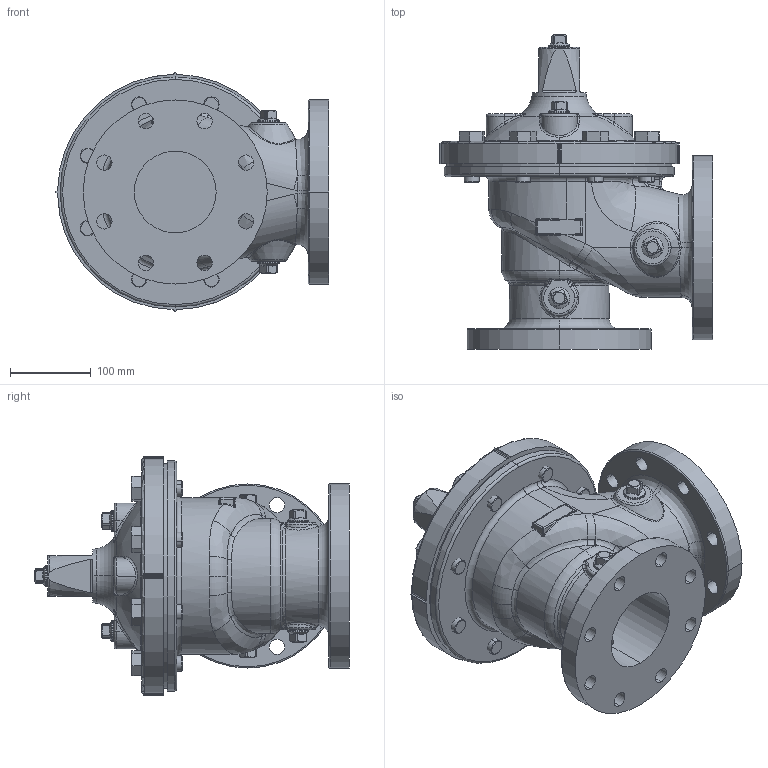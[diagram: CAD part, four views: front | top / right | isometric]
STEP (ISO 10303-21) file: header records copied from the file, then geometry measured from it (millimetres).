
FILE_DESCRIPTION (( 'STEP AP203' ), '1' );
FILE_NAME ('4in 100-01 Main Valve 150AA.STEP', '2016-07-14T17:13:09', ( '' ), ( '' ), 'SwSTEP 2.0', 'SolidWorks 2016', '' );
FILE_SCHEMA (( 'CONFIG_CONTROL_DESIGN' ));
Length unit declared in the file: inch
Products named in the file (5): 4in 100-01 Main Valve 150AA; 4in Body HyAn150A STD (BLUE)_DI, 150 FLAT FACE; 4in Cover (no core)_Default DI; .750 NPT PIPE PLUG (67660)_Default STEEL, CAD PL; Bolt .750-10 UNC  (67609)_2   67609-05H
Assembly tree (17 placements, depth 2):
  4in 100-01 Main Valve 150AA
    4in Body HyAn150A STD (BLUE)_DI, 150 FLAT FACE
    4in Cover (no core)_Default DI
    .750 NPT PIPE PLUG (67660)_Default STEEL, CAD PL  x7
    Bolt .750-10 UNC  (67609)_2   67609-05H  x8
Bounding box: 339.34 x 390.6 x 297.69 mm (x, y, z)
Volume: 8938550.2 mm3; surface area: 924238.9 mm2
Topology: 18 solids, 18 shells, 1390 faces, 3150 edges, 1759 vertices
Faces by surface type: cone 413, cylinder 278, bspline 260, plane 215, torus 148, sphere 76
Entity records: 29156 total; most frequent: CARTESIAN_POINT 14502, ORIENTED_EDGE 3000, DIRECTION 2779, EDGE_CURVE 1500, AXIS2_PLACEMENT_3D 1208, VERTEX_POINT 895, EDGE_LOOP 727, CIRCLE 725
